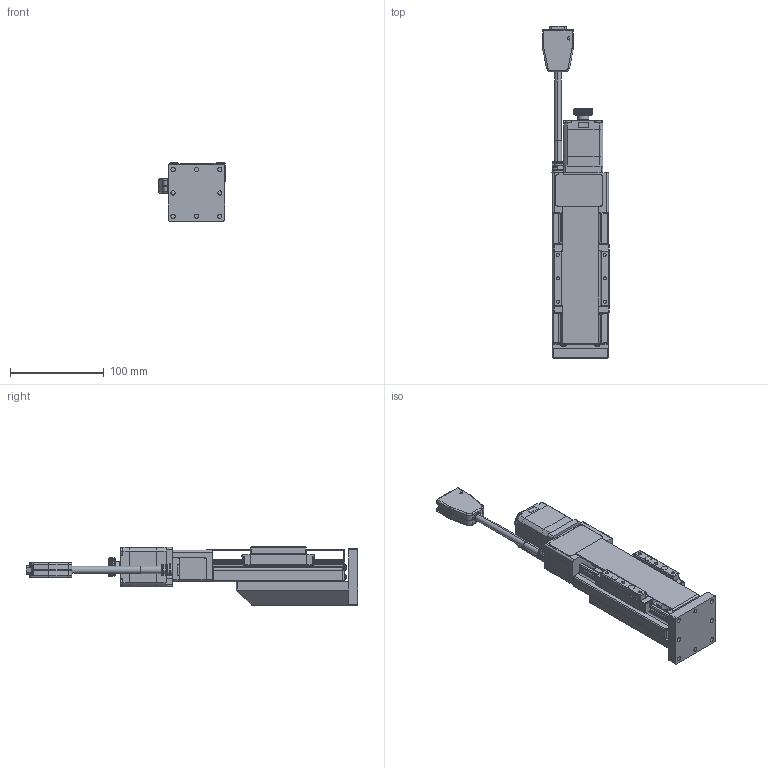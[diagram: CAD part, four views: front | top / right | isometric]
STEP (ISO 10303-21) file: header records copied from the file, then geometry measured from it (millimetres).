
FILE_DESCRIPTION (( 'STEP AP203' ), '1' );
FILE_NAME ('CZLC6050-S2?N.STEP', '2023-10-02T05:14:50', ( '' ), ( '' ), 'SwSTEP 2.0', 'SolidWorks 2019', '' );
FILE_SCHEMA (( 'CONFIG_CONTROL_DESIGN' ));
Products named in the file (4): CZLC6050-S2?N; Group1^CZLC6050-S2?N(2023新版)_defeature_GMT; CXN60_GMT; Group2^CZLC6050-S2?N(2023新版)_defeature_GMT
Assembly tree (3 placements, depth 2):
  CZLC6050-S2?N
    Group1^CZLC6050-S2?N(2023新版)_defeature_GMT
    Group2^CZLC6050-S2?N(2023新版)_defeature_GMT
    CXN60_GMT
Bounding box: 71.5 x 354.6 x 62 mm (x, y, z)
Volume: 48235.5 mm3; surface area: 150172.2 mm2
Topology: 19 solids, 23 shells, 4309 faces, 11129 edges, 6871 vertices
Faces by surface type: plane 1645, cylinder 1271, cone 575, torus 412, bspline 262, sphere 144
Entity records: 144174 total; most frequent: CARTESIAN_POINT 40003, ORIENTED_EDGE 21994, DIRECTION 21910, EDGE_CURVE 10997, AXIS2_PLACEMENT_3D 8302, VERTEX_POINT 6863, LINE 5306, VECTOR 5306
